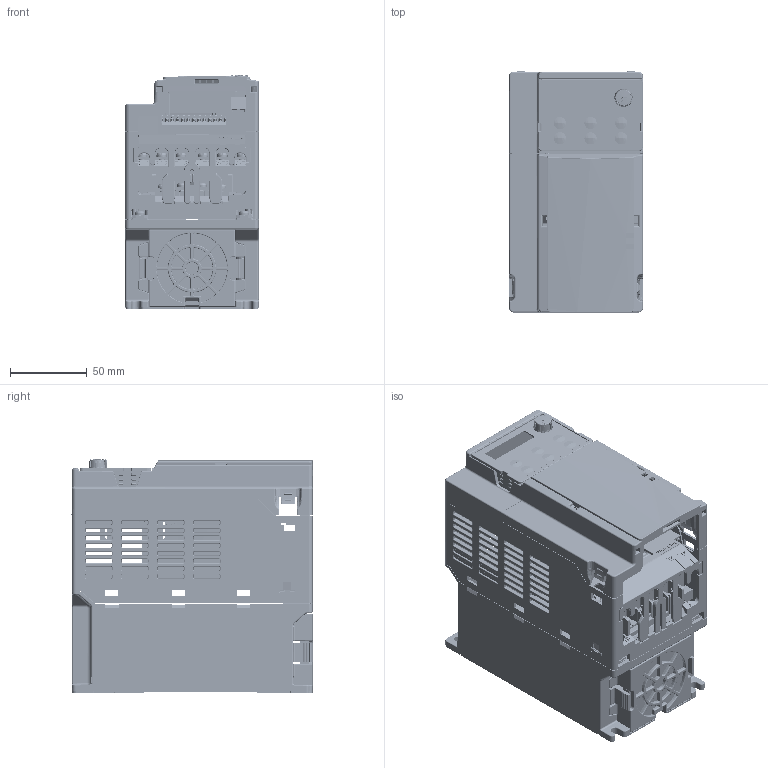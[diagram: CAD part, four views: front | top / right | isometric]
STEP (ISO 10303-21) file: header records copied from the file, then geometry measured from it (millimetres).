
FILE_DESCRIPTION((''),'2;1');
FILE_NAME('ASM0001_ASM_1_ASM','2023-12-28T10:22:31',('EDWARD.LIAO'),(''),'CREO PARAMETRIC BY PTC INC, 2022162','CREO PARAMETRIC BY PTC INC, 2022162','');
FILE_SCHEMA(('AUTOMOTIVE_DESIGN { 1 0 10303 214 1 1 1 1 }'));
Length unit declared in the file: millimetre
Products named in the file (141): VFD-MS300-C1-PD-3D01_1_1; VFD-MS300-C1-PD-3D01_2_1; VFD-MS300-C1-PD-3D01_3_1; VFD-MS300-C1-PD-3D01_4_1; VFD-MS300-C1-PD-3D01_5_1; VFD-MS300-C1-PD-3D01_6_1; VFD-MS300-C1-PD-3D01_8_1; VFD-MS300-C1-PD-3D01_9_1; VFD-MS300-C1-PD-3D01_26_1; VFD-MS300-C1-PD-3D01_37_1; VFD-MS300-C1-PD-3D01_38_1; VFD-MS300-C1-PD-3D01_39_1; VFD-MS300-C1-PD-3D01_40_1; VFD-MS300-C1-PD-3D01_41_1; VFD-MS300-C1-PD-3D01_42_1; VFD-MS300-C1-PD-3D01_44_1; VFD-MS300-C1-PD-3D01_46_1; VFD-MS300-C1-PD-3D01_48_1; VFD-MS300-C1-PD-3D01_50_1; VFD-MS300-C1-PD-3D01_52_1; VFD-MS300-C1-PD-3D01_54_1; VFD-MS300-C1-PD-3D01_55_1; VFD-MS300-C1-PD-3D01_56_1; VFD-MS300-C1-PD-3D01_57_1; VFD-MS300-C1-PD-3D01_59_1; VFD-MS300-C1-PD-3D01_60_1; CAD0000911863_1_1; CAD0000911861_1; CAD000094198; MS-CTR_2_1_1_2_1; MS-CTR_3_1_1_2_1; MS-CTR_4_1_1_2_1; MS-CTR_5_1_1_2_1; MS-CTR_6_1_1_2_1; MS-CTR_7_1_1_2_1; MS-CTR_8_1_1_2_1; MS-CTR_9_1_1_2_1; MS-CTR_10_1_1_2_1; MS-CTR_11_1_1_2_1; MS-CTR_12_1_1_2_1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
Assembly tree (140 placements, depth 6):
  ASM0001_ASM_1_ASM
    VFD-MS300-C1-PD-3D01_1_1
    VFD-MS300-C1-PD-3D01_2_1
    VFD-MS300-C1-PD-3D01_3_1
    VFD-MS300-C1-PD-3D01_4_1
    VFD-MS300-C1-PD-3D01_5_1
    VFD-MS300-C1-PD-3D01_6_1
    VFD-MS300-C1-PD-3D01_8_1
    VFD-MS300-C1-PD-3D01_9_1
    VFD-MS300-C1-PD-3D01_26_1
    VFD-MS300-C1-PD-3D01_37_1
    VFD-MS300-C1-PD-3D01_38_1
    VFD-MS300-C1-PD-3D01_39_1
    VFD-MS300-C1-PD-3D01_40_1
    VFD-MS300-C1-PD-3D01_41_1
    VFD-MS300-C1-PD-3D01_42_1
    VFD-MS300-C1-PD-3D01_44_1
    VFD-MS300-C1-PD-3D01_46_1
    VFD-MS300-C1-PD-3D01_48_1
    VFD-MS300-C1-PD-3D01_50_1
    VFD-MS300-C1-PD-3D01_52_1
    VFD-MS300-C1-PD-3D01_54_1
    VFD-MS300-C1-PD-3D01_55_1
    VFD-MS300-C1-PD-3D01_56_1
    VFD-MS300-C1-PD-3D01_57_1
    VFD-MS300-C1-PD-3D01_59_1
    VFD-MS300-C1-PD-3D01_60_1
    CAD0000911863_1_1
    CAD0000911861_1
    CAD000094198
    MS-CTR_ASM
      CAD0000911465_ASM_1_1_2_ASM_1_ASM
        MS-CTR_2_1_1_2_1
        MS-CTR_3_1_1_2_1
        MS-CTR_4_1_1_2_1
        MS-CTR_5_1_1_2_1
        MS-CTR_6_1_1_2_1
        MS-CTR_7_1_1_2_1
        MS-CTR_8_1_1_2_1
        MS-CTR_9_1_1_2_1
        MS-CTR_10_1_1_2_1
        MS-CTR_11_1_1_2_1
        MS-CTR_12_1_1_2_1
        MS-CTR_13_1_1_2_1
        MS-CTR_14_1_1_2_1
        MS-CTR_15_1_1_2_1
        MS-CTR_16_1_1_2_1
        MS-CTR_18_1_1_2_1
        MS-CTR_19_1_1_2_1
        MS-CTR_21_1_1_2_1
        MS-CTR_22_1_1_2_1
        MS-CTR_23_1_1_2_1
        MS-CTR_24_1_1_2_1
        MS-CTR_26_1_1_2_1
        MS-CTR_27_1_1_2_1
        MS-CTR_29_1_1_2_1
        MS-CTR_30_1_1_2_1
        MS-CTR_31_1_1_2_1
        MS-CTR_32_1_1_2_1
        MS-CTR_34_1_1_2_1
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Bounding box: 87.6 x 157.3 x 152.1 mm (x, y, z)
Volume: 358038.7 mm3; surface area: 323920 mm2
Topology: 135 solids, 137 shells, 16125 faces, 44958 edges, 29067 vertices
Faces by surface type: plane 9767, cylinder 3954, cone 746, torus 599, bspline 497, extrusion 421, sphere 127, revolution 14
Entity records: 703694 total; most frequent: CARTESIAN_POINT 143804, ORIENTED_EDGE 88464, DIRECTION 82967, EDGE_CURVE 44238, PRESENTATION_STYLE_ASSIGNMENT 38899, STYLED_ITEM 38629, CURVE_STYLE 38181, VECTOR 31220
